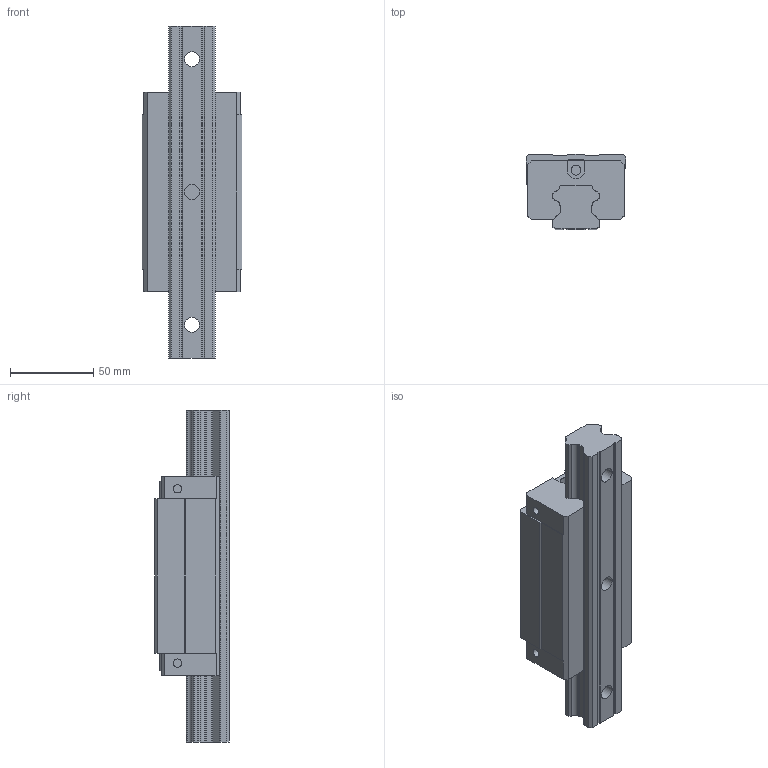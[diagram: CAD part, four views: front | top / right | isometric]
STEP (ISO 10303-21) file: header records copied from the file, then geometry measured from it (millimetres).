
FILE_DESCRIPTION((''),'2;1');
FILE_NAME('HGH30HA_ASM','2008-07-11T',('immo'),(''),'PRO/ENGINEER BY PARAMETRIC TECHNOLOGY CORPORATION, 2004360','PRO/ENGINEER BY PARAMETRIC TECHNOLOGY CORPORATION, 2004360','');
FILE_SCHEMA(('CONFIG_CONTROL_DESIGN'));
Length unit declared in the file: millimetre
Products named in the file (4): PRT0002; PRT0003; ASM0001_ASM; HGH30HA_ASM
Assembly tree (3 placements, depth 3):
  HGH30HA_ASM
    ASM0001_ASM
      PRT0002
      PRT0003
Bounding box: 60 x 45 x 200 mm (x, y, z)
Volume: 325987.5 mm3; surface area: 59572.2 mm2
Topology: 2 solids, 2 shells, 205 faces, 552 edges, 368 vertices
Faces by surface type: plane 119, cylinder 86
Entity records: 6600 total; most frequent: DIRECTION 1156, CARTESIAN_POINT 1134, ORIENTED_EDGE 1104, EDGE_CURVE 552, AXIS2_PLACEMENT_3D 390, VECTOR 376, LINE 376, VERTEX_POINT 368
